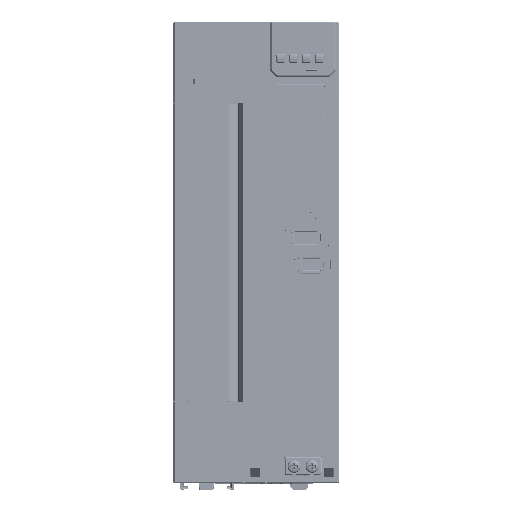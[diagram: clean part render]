
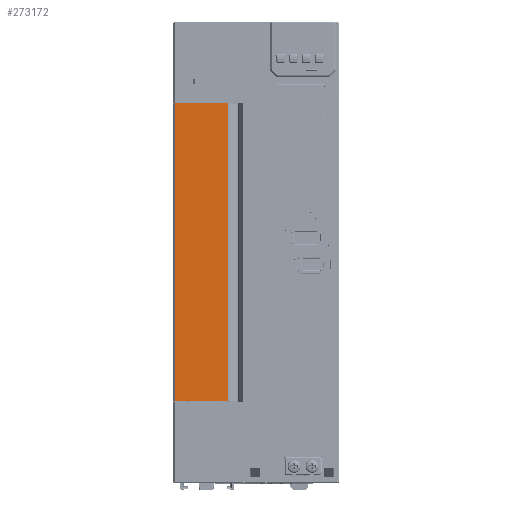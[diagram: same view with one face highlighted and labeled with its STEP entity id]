
A CAD part, top view. The second image highlights one B-rep face of the part: STEP entity #273172.
In plain terms, the highlighted planar face has unit normal (0, 0, 1).
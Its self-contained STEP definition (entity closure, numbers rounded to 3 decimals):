
#6207=DIRECTION('',(-1.,0.,0.));
#6208=VECTOR('',#6207,28.865);
#6209=CARTESIAN_POINT('',(-40.531,80.8,0.));
#6210=LINE('',#6209,#6208);
#45495=DIRECTION('',(1.,0.,0.));
#45496=VECTOR('',#45495,28.865);
#45497=CARTESIAN_POINT('',(-69.396,-80.8,0.));
#45498=LINE('',#45497,#45496);
#46825=DIRECTION('',(0.,-1.,0.));
#46826=VECTOR('',#46825,161.6);
#46827=CARTESIAN_POINT('',(-69.396,80.8,0.));
#46828=LINE('',#46827,#46826);
#46838=DIRECTION('',(0.,1.,0.));
#46839=VECTOR('',#46838,161.6);
#46840=CARTESIAN_POINT('',(-40.531,-80.8,0.));
#46841=LINE('',#46840,#46839);
#141461=CARTESIAN_POINT('',(-69.396,80.8,0.));
#141462=CARTESIAN_POINT('',(-69.396,-80.8,0.));
#141463=VERTEX_POINT('',#141461);
#141464=VERTEX_POINT('',#141462);
#141465=CARTESIAN_POINT('',(-40.531,80.8,0.));
#141466=VERTEX_POINT('',#141465);
#141467=CARTESIAN_POINT('',(-40.531,-80.8,0.));
#141468=VERTEX_POINT('',#141467);
#273160=CARTESIAN_POINT('',(-54.964,0.,0.));
#273161=DIRECTION('',(0.,0.,1.));
#273162=DIRECTION('',(1.,0.,0.));
#273163=AXIS2_PLACEMENT_3D('',#273160,#273161,#273162);
#273164=PLANE('',#273163);
#273165=ORIENTED_EDGE('',*,*,#273147,.F.);
#273166=ORIENTED_EDGE('',*,*,#184499,.F.);
#273168=ORIENTED_EDGE('',*,*,#273167,.F.);
#273169=ORIENTED_EDGE('',*,*,#270621,.F.);
#273170=EDGE_LOOP('',(#273165,#273166,#273168,#273169));
#273171=FACE_OUTER_BOUND('',#273170,.F.);
#184499=EDGE_CURVE('',#141466,#141463,#6210,.T.);
#270621=EDGE_CURVE('',#141464,#141468,#45498,.T.);
#273147=EDGE_CURVE('',#141463,#141464,#46828,.T.);
#273167=EDGE_CURVE('',#141468,#141466,#46841,.T.);
#273172=ADVANCED_FACE('',(#273171),#273164,.T.);
